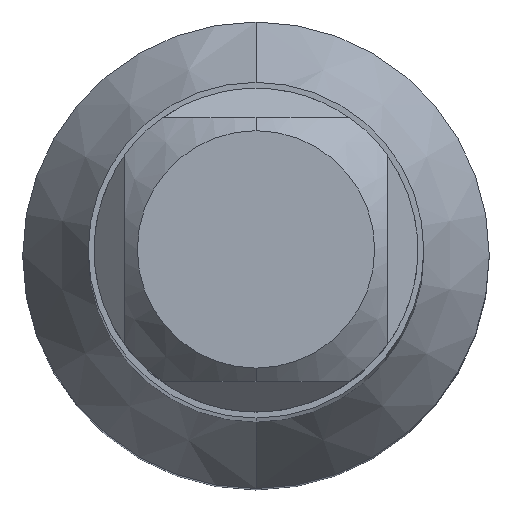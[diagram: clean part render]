
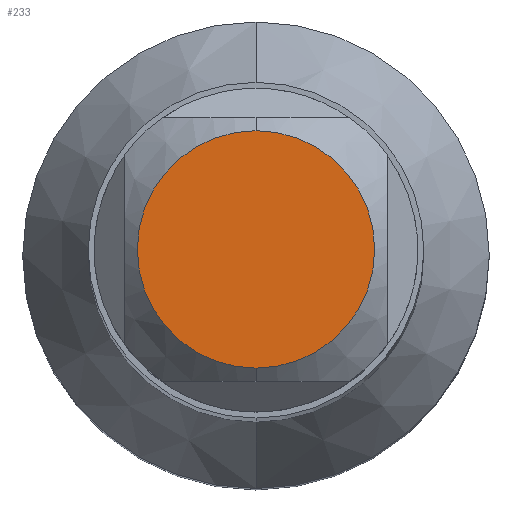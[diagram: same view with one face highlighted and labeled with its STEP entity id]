
A CAD part, top view. The second image highlights one B-rep face of the part: STEP entity #233.
In plain terms, the highlighted planar face has unit normal (0, 0, 1).
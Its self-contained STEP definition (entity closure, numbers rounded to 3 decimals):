
#39 = ORIENTED_EDGE ( 'NONE', *, *, #90, .F. ) ;
#90 = EDGE_CURVE ( 'NONE', #1035, #850, #973, .T. ) ;
#125 = ORIENTED_EDGE ( 'NONE', *, *, #305, .F. ) ;
#141 = CARTESIAN_POINT ( 'NONE',  ( 0., 0., 54. ) ) ;
#145 = DIRECTION ( 'NONE',  ( 0., 0., -1. ) ) ;
#146 = DIRECTION ( 'NONE',  ( 0., 1., 0. ) ) ;
#233 = ADVANCED_FACE ( 'NONE', ( #1236 ), #534, .F. ) ;
#305 = EDGE_CURVE ( 'NONE', #850, #1035, #723, .T. ) ;
#501 = AXIS2_PLACEMENT_3D ( 'NONE', #141, #145, #146 ) ;
#534 = PLANE ( 'NONE',  #601 ) ;
#536 = EDGE_LOOP ( 'NONE', ( #39, #125 ) ) ;
#560 = CARTESIAN_POINT ( 'NONE',  ( 0., 0., 54. ) ) ;
#601 = AXIS2_PLACEMENT_3D ( 'NONE', #560, #684, #678 ) ;
#678 = DIRECTION ( 'NONE',  ( 0., 1., 0. ) ) ;
#684 = DIRECTION ( 'NONE',  ( 0., 0., -1. ) ) ;
#702 = DIRECTION ( 'NONE',  ( 0., 0., -1. ) ) ;
#705 = DIRECTION ( 'NONE',  ( 0., 1., 0. ) ) ;
#723 = CIRCLE ( 'NONE', #1251, 2.475 ) ;
#829 = CARTESIAN_POINT ( 'NONE',  ( 0., 0., 54. ) ) ;
#850 = VERTEX_POINT ( 'NONE', #1306 ) ;
#881 = CARTESIAN_POINT ( 'NONE',  ( 0., 2.475, 54. ) ) ;
#973 = CIRCLE ( 'NONE', #501, 2.475 ) ;
#1035 = VERTEX_POINT ( 'NONE', #881 ) ;
#1236 = FACE_OUTER_BOUND ( 'NONE', #536, .T. ) ;
#1251 = AXIS2_PLACEMENT_3D ( 'NONE', #829, #702, #705 ) ;
#1306 = CARTESIAN_POINT ( 'NONE',  ( 0., -2.475, 54. ) ) ;
